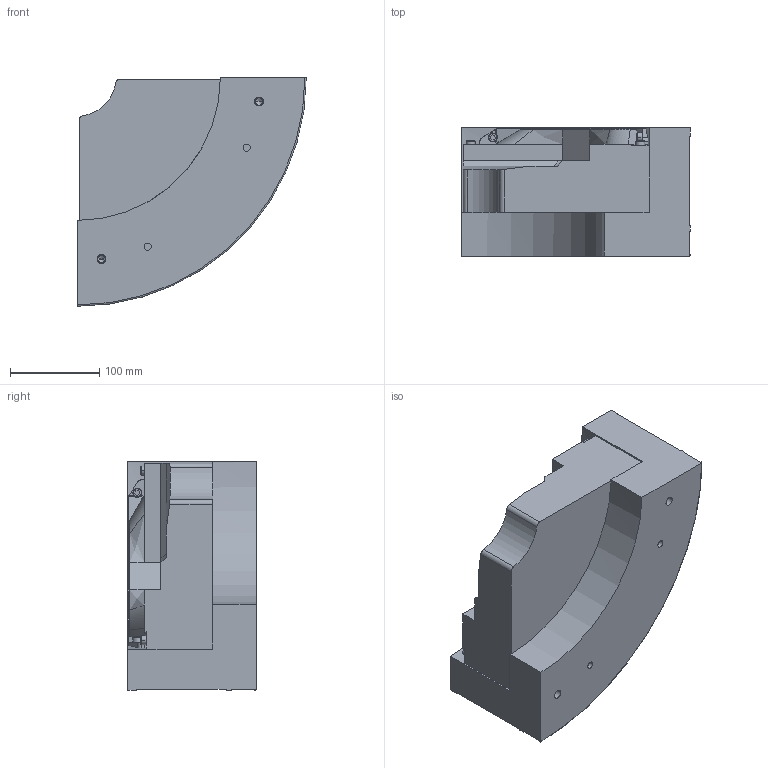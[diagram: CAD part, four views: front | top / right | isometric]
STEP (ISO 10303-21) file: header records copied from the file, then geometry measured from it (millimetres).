
FILE_DESCRIPTION((''),'2;1');
FILE_NAME('W0001038264','2024-08-14T11:37:55',('RRajan1'),('Rockwell Automation'),'CREO PARAMETRIC BY PTC INC, 2020281','CREO PARAMETRIC BY PTC INC, 2020281','');
FILE_SCHEMA(('CONFIG_CONTROL_DESIGN'));
Length unit declared in the file: millimetre
Products named in the file (1): W0001038264
Bounding box: 256.03 x 144 x 256.03 mm (x, y, z)
Volume: 5196804.2 mm3; surface area: 244422.4 mm2
Topology: 1 solids, 1 shells, 194 faces, 494 edges, 318 vertices
Faces by surface type: plane 87, cylinder 60, extrusion 22, cone 17, bspline 7, revolution 1
Entity records: 6745 total; most frequent: CARTESIAN_POINT 2119, ORIENTED_EDGE 972, DIRECTION 880, EDGE_CURVE 486, VERTEX_POINT 318, VECTOR 301, AXIS2_PLACEMENT_3D 289, LINE 279
